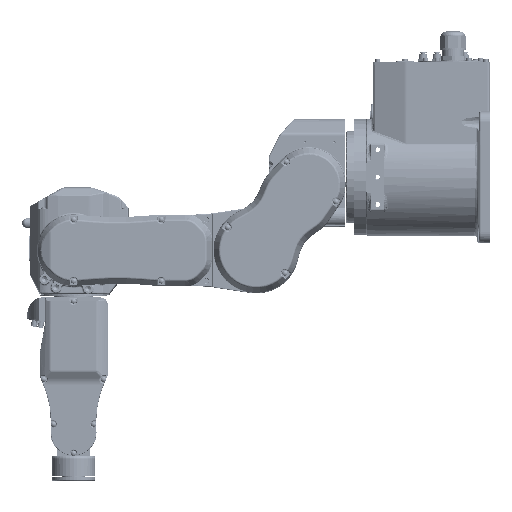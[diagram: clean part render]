
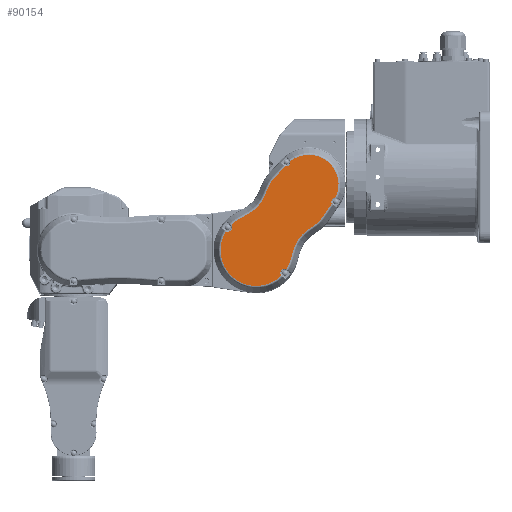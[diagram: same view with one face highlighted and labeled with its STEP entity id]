
A CAD part, left-side view. The second image highlights one B-rep face of the part: STEP entity #90154.
In plain terms, the highlighted planar face has unit normal (-1, 0, 0) as drawn and (0, 0, 1) by its records, which use the part's own axes.
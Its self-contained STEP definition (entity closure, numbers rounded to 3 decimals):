
#69757=CARTESIAN_POINT('',(-27.471,211.181,
99.));
#70041=CARTESIAN_POINT('',(20.878,279.004,99.));
#70042=DIRECTION('',(0.,0.,-1.));
#70043=DIRECTION('',(0.201,-0.98,0.));
#70044=AXIS2_PLACEMENT_3D('',#70041,#70042,#70043);
#70046=CARTESIAN_POINT('',(-10.,248.,99.));
#70047=DIRECTION('',(0.,0.,1.));
#70048=DIRECTION('',(-0.429,-0.903,0.));
#70049=AXIS2_PLACEMENT_3D('',#70046,#70047,#70048);
#70051=CARTESIAN_POINT('',(-33.47,211.069,99.));
#70052=DIRECTION('',(0.,0.,-1.));
#70053=DIRECTION('',(-0.433,0.902,0.));
#70054=AXIS2_PLACEMENT_3D('',#70051,#70052,#70053);
#70056=DIRECTION('',(0.822,-0.569,0.));
#70057=VECTOR('',#70056,23.24);
#70058=CARTESIAN_POINT('',(-55.178,229.701,99.));
#70059=LINE('',#70058,#70057);
#70060=CARTESIAN_POINT('',(-31.989,263.215,99.));
#70061=DIRECTION('',(0.,0.,1.));
#70062=DIRECTION('',(-0.816,-0.578,0.));
#70063=AXIS2_PLACEMENT_3D('',#70060,#70061,#70062);
#70065=DIRECTION('',(0.578,-0.816,0.));
#70066=VECTOR('',#70065,12.664);
#70067=CARTESIAN_POINT('',(-72.563,249.986,99.));
#70068=LINE('',#70067,#70066);
#70069=CARTESIAN_POINT('',(-112.745,221.514,99.));
#70070=DIRECTION('',(0.,0.,-1.));
#70071=DIRECTION('',(0.287,0.958,0.));
#70072=AXIS2_PLACEMENT_3D('',#70069,#70070,#70071);
#70074=DIRECTION('',(0.958,-0.287,0.));
#70075=VECTOR('',#70074,16.059);
#70076=CARTESIAN_POINT('',(-113.993,273.298,99.));
#70077=LINE('',#70076,#70075);
#70078=CARTESIAN_POINT('',(-100.,320.,99.));
#70079=DIRECTION('',(0.,0.,1.));
#70080=DIRECTION('',(-0.528,-0.849,0.));
#70081=AXIS2_PLACEMENT_3D('',#70078,#70079,#70080);
#70083=CARTESIAN_POINT('',(-131.235,280.957,99.));
#70084=DIRECTION('',(0.,0.,-1.));
#70085=DIRECTION('',(-0.587,0.809,0.));
#70086=AXIS2_PLACEMENT_3D('',#70083,#70084,#70085);
#70088=CARTESIAN_POINT('',(-100.,320.,99.));
#70089=DIRECTION('',(0.,0.,1.));
#70090=DIRECTION('',(0.528,0.849,0.));
#70091=AXIS2_PLACEMENT_3D('',#70088,#70089,#70090);
#70093=CARTESIAN_POINT('',(-68.765,359.043,99.));
#70094=DIRECTION('',(0.,0.,-1.));
#70095=DIRECTION('',(0.587,-0.809,0.));
#70096=AXIS2_PLACEMENT_3D('',#70093,#70094,#70095);
#70098=CARTESIAN_POINT('',(-100.,320.,99.));
#70099=DIRECTION('',(0.,0.,1.));
#70100=DIRECTION('',(0.872,0.49,0.));
#70101=AXIS2_PLACEMENT_3D('',#70098,#70099,#70100);
#70103=DIRECTION('',(-0.49,0.872,0.));
#70104=VECTOR('',#70103,16.059);
#70105=CARTESIAN_POINT('',(-49.635,329.907,99.));
#70106=LINE('',#70105,#70104);
#70107=CARTESIAN_POINT('',(-6.714,354.053,99.));
#70108=DIRECTION('',(0.,0.,-1.));
#70109=DIRECTION('',(-0.385,-0.923,0.));
#70110=AXIS2_PLACEMENT_3D('',#70107,#70108,#70109);
#70112=DIRECTION('',(-0.923,0.385,0.));
#70113=VECTOR('',#70112,12.664);
#70114=CARTESIAN_POINT('',(-13.983,303.726,99.));
#70115=LINE('',#70114,#70113);
#70116=CARTESIAN_POINT('',(-29.671,266.113,99.));
#70117=DIRECTION('',(0.,0.,1.));
#70118=DIRECTION('',(0.677,0.736,0.));
#70119=AXIS2_PLACEMENT_3D('',#70116,#70117,#70118);
#70121=DIRECTION('',(-0.736,0.677,0.));
#70122=VECTOR('',#70121,23.24);
#70123=CARTESIAN_POINT('',(15.031,280.35,99.));
#70124=LINE('',#70123,#70122);
#70135=CARTESIAN_POINT('',(15.031,280.35,99.));
#70262=CARTESIAN_POINT('',(-74.277,361.415,
99.));
#70305=CARTESIAN_POINT('',(-125.723,278.585,
99.));
#77088=CARTESIAN_POINT('',(-49.635,329.907,99.));
#77089=CARTESIAN_POINT('',(-57.509,343.904,99.));
#77090=VERTEX_POINT('',#77088);
#77091=VERTEX_POINT('',#77089);
#77096=CARTESIAN_POINT('',(-25.671,308.601,99.));
#77097=VERTEX_POINT('',#77096);
#77100=CARTESIAN_POINT('',(-13.983,303.726,99.));
#77101=VERTEX_POINT('',#77100);
#77104=CARTESIAN_POINT('',(-2.065,296.093,99.));
#77105=VERTEX_POINT('',#77104);
#77108=CARTESIAN_POINT('',(-65.242,239.653,99.));
#77109=CARTESIAN_POINT('',(-55.178,229.701,99.));
#77110=VERTEX_POINT('',#77108);
#77111=VERTEX_POINT('',#77109);
#77116=CARTESIAN_POINT('',(-72.563,249.986,99.));
#77117=VERTEX_POINT('',#77116);
#77120=CARTESIAN_POINT('',(-98.61,268.689,99.));
#77121=VERTEX_POINT('',#77120);
#77124=CARTESIAN_POINT('',(-113.993,273.298,99.));
#77125=VERTEX_POINT('',#77124);
#77132=VERTEX_POINT('',#70135);
#77134=CARTESIAN_POINT('',(22.085,273.127,99.));
#77135=VERTEX_POINT('',#77134);
#77146=VERTEX_POINT('',#69757);
#77148=CARTESIAN_POINT('',(-36.066,216.478,99.));
#77149=VERTEX_POINT('',#77148);
#77160=VERTEX_POINT('',#70305);
#77162=CARTESIAN_POINT('',(-134.758,285.813,99.));
#77163=VERTEX_POINT('',#77162);
#77174=VERTEX_POINT('',#70262);
#77176=CARTESIAN_POINT('',(-65.242,354.187,99.));
#77177=VERTEX_POINT('',#77176);
#90114=CARTESIAN_POINT('',(0.,198.,99.));
#90115=DIRECTION('',(0.,0.,1.));
#90116=DIRECTION('',(1.,0.,0.));
#90117=AXIS2_PLACEMENT_3D('',#90114,#90115,#90116);
#90118=PLANE('',#90117);
#90120=ORIENTED_EDGE('',*,*,#90119,.F.);
#90121=ORIENTED_EDGE('',*,*,#89195,.F.);
#90123=ORIENTED_EDGE('',*,*,#90122,.F.);
#90124=ORIENTED_EDGE('',*,*,#90080,.F.);
#90125=ORIENTED_EDGE('',*,*,#90097,.F.);
#90127=ORIENTED_EDGE('',*,*,#90126,.F.);
#90129=ORIENTED_EDGE('',*,*,#90128,.F.);
#90131=ORIENTED_EDGE('',*,*,#90130,.F.);
#90133=ORIENTED_EDGE('',*,*,#90132,.F.);
#90135=ORIENTED_EDGE('',*,*,#90134,.F.);
#90137=ORIENTED_EDGE('',*,*,#90136,.F.);
#90139=ORIENTED_EDGE('',*,*,#90138,.F.);
#90141=ORIENTED_EDGE('',*,*,#90140,.F.);
#90143=ORIENTED_EDGE('',*,*,#90142,.F.);
#90145=ORIENTED_EDGE('',*,*,#90144,.F.);
#90147=ORIENTED_EDGE('',*,*,#90146,.F.);
#90149=ORIENTED_EDGE('',*,*,#90148,.F.);
#90151=ORIENTED_EDGE('',*,*,#90150,.F.);
#90152=EDGE_LOOP('',(#90120,#90121,#90123,#90124,#90125,#90127,#90129,#90131,
#90133,#90135,#90137,#90139,#90141,#90143,#90145,#90147,#90149,#90151));
#90153=FACE_OUTER_BOUND('',#90152,.F.);
#90154=ADVANCED_FACE('',(#90153),#90118,.T.);
#70045=CIRCLE('',#70044,6.);
#70050=CIRCLE('',#70049,40.753);
#70055=CIRCLE('',#70054,6.);
#70064=CIRCLE('',#70063,40.753);
#70073=CIRCLE('',#70072,49.247);
#70082=CIRCLE('',#70081,48.753);
#70087=CIRCLE('',#70086,6.);
#70092=CIRCLE('',#70091,48.753);
#70097=CIRCLE('',#70096,6.);
#70102=CIRCLE('',#70101,48.753);
#70111=CIRCLE('',#70110,49.247);
#70120=CIRCLE('',#70119,40.753);
#89195=EDGE_CURVE('',#77146,#77135,#70050,.T.);
#90080=EDGE_CURVE('',#77111,#77149,#70059,.T.);
#90097=EDGE_CURVE('',#77110,#77111,#70064,.T.);
#90119=EDGE_CURVE('',#77135,#77132,#70045,.T.);
#90122=EDGE_CURVE('',#77149,#77146,#70055,.T.);
#90126=EDGE_CURVE('',#77117,#77110,#70068,.T.);
#90128=EDGE_CURVE('',#77121,#77117,#70073,.T.);
#90130=EDGE_CURVE('',#77125,#77121,#70077,.T.);
#90132=EDGE_CURVE('',#77160,#77125,#70082,.T.);
#90134=EDGE_CURVE('',#77163,#77160,#70087,.T.);
#90136=EDGE_CURVE('',#77174,#77163,#70092,.T.);
#90138=EDGE_CURVE('',#77177,#77174,#70097,.T.);
#90140=EDGE_CURVE('',#77091,#77177,#70102,.T.);
#90142=EDGE_CURVE('',#77090,#77091,#70106,.T.);
#90144=EDGE_CURVE('',#77097,#77090,#70111,.T.);
#90146=EDGE_CURVE('',#77101,#77097,#70115,.T.);
#90148=EDGE_CURVE('',#77105,#77101,#70120,.T.);
#90150=EDGE_CURVE('',#77132,#77105,#70124,.T.);
